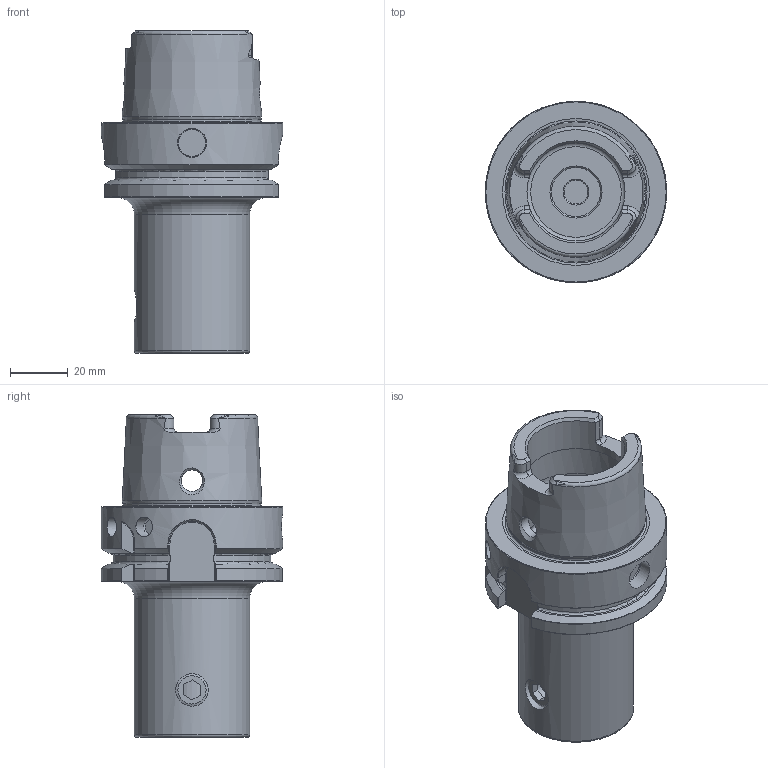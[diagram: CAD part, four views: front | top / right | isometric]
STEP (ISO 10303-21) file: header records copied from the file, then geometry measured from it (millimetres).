
FILE_DESCRIPTION(/* description */ (''),/* implementation_level */ '2;1');
FILE_NAME(/* name */ 'HSK63AKM40080M_GTM.stp',/* time_stamp */ '2019-01-16T16:03:17+06:00',/* author */ (''),/* organization */ (''),/* preprocessor_version */ 'ST-DEVELOPER v16.7',/* originating_system */ 'SIEMENS PLM Software NX 12.0',/* authorisation */ '');
FILE_SCHEMA (('AUTOMOTIVE_DESIGN { 1 0 10303 214 3 1 1 1 }'));
Length unit declared in the file: millimetre
Products named in the file (1): HSK63AKM40080M_GTM
Bounding box: 62.94 x 62.94 x 111.92 mm (x, y, z)
Volume: 139389.8 mm3; surface area: 37706 mm2
Topology: 7 solids, 7 shells, 272 faces, 686 edges, 436 vertices
Faces by surface type: plane 109, cylinder 73, torus 43, cone 41, bspline 6
Full cylindrical faces by diameter (mm): 3 x2, 5.5 x2, 6.8 x2, 7 x1, 7.15 x1, 7.5 x2, 8.2 x1, 9.925 x2, 10 x1, 10.045 x1, 11.035 x1, 11.283 x1, 12 x1, 13.9 x1, 17.035 x1, 17.5 x1, 18.55 x1, 20.65 x1, 27.432 x1, 27.75 x1, 34.05 x2, 40 x1, 40.08 x1, 47.941 x1, 62.94 x1
Entity records: 9777 total; most frequent: CARTESIAN_POINT 3820, DIRECTION 1175, ORIENTED_EDGE 1150, EDGE_CURVE 575, AXIS2_PLACEMENT_3D 477, VERTEX_POINT 403, EDGE_LOOP 364, ADVANCED_FACE 271
